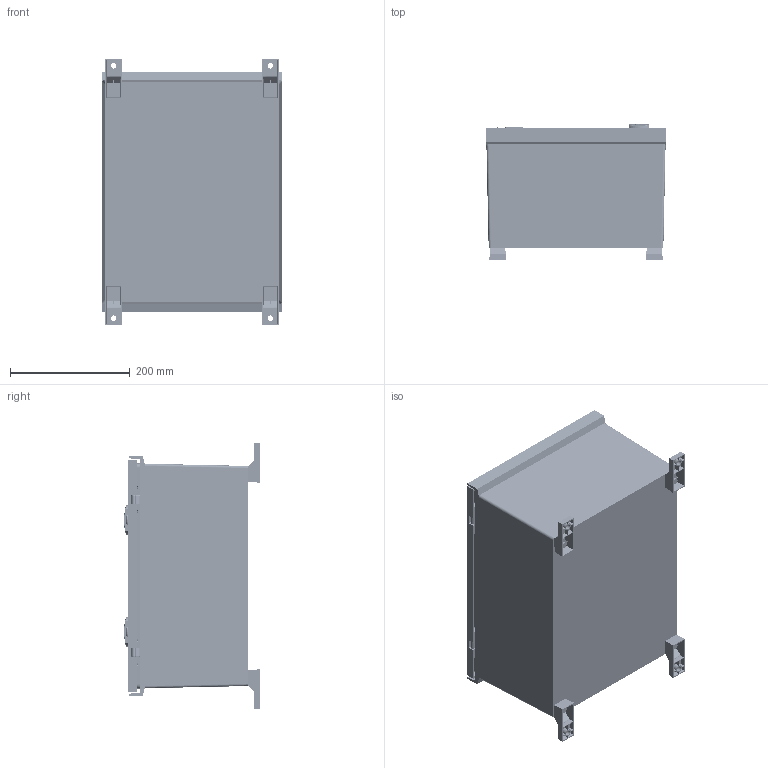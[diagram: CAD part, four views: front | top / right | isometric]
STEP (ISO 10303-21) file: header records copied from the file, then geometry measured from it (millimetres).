
FILE_DESCRIPTION (( 'STEP AP203' ), '1' );
FILE_NAME ('CN5N0432 simple.STEP', '2026-07-08T12:12:36', ( '' ), ( '' ), 'SwSTEP 2.0', 'SolidWorks 2022', '' );
FILE_SCHEMA (( 'CONFIG_CONTROL_DESIGN' ));
Products named in the file (1): CN5N0432 simple
Bounding box: 300.77 x 227.44 x 445.27 mm (x, y, z)
Volume: 1859525 mm3; surface area: 1252501 mm2
Topology: 68 solids, 72 shells, 8508 faces, 21019 edges, 12909 vertices
Faces by surface type: plane 3528, cylinder 2313, cone 1326, bspline 683, torus 386, sphere 272
Entity records: 343533 total; most frequent: CARTESIAN_POINT 149063, ORIENTED_EDGE 41630, DIRECTION 38618, EDGE_CURVE 20815, AXIS2_PLACEMENT_3D 13956, VERTEX_POINT 12901, VECTOR 10706, LINE 10706
